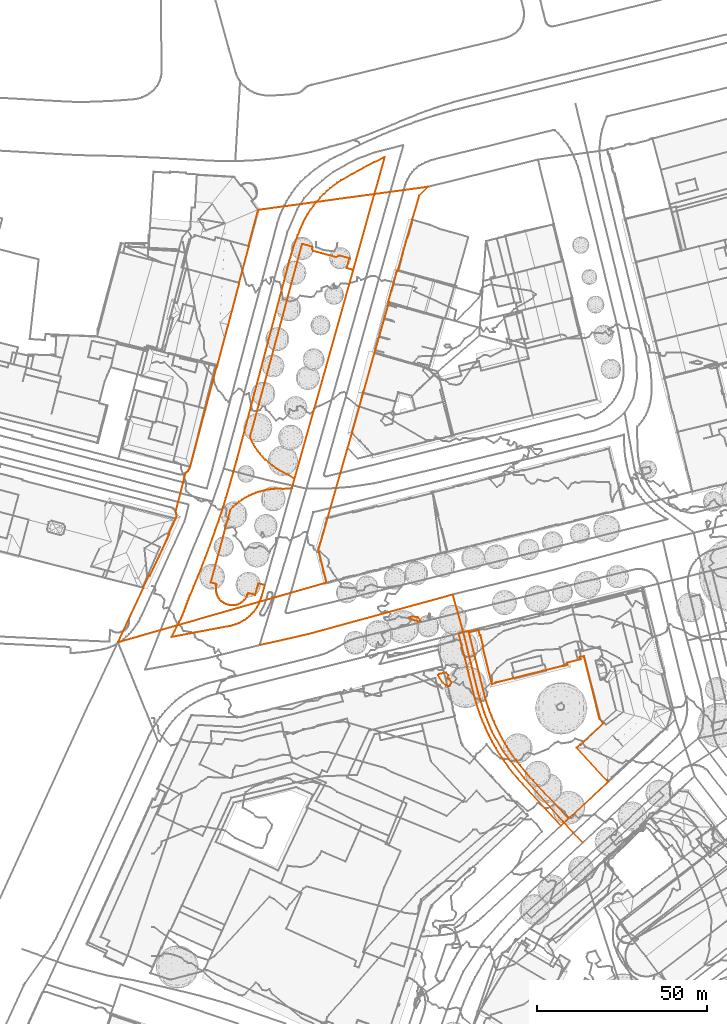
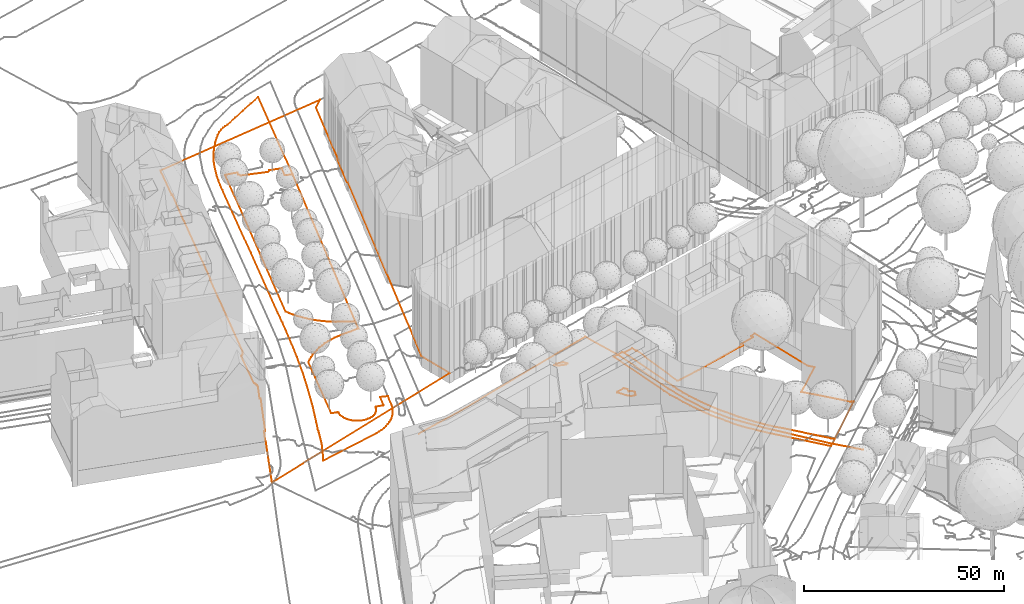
# Not in any storey, part 106 of 494: 9 proxies.
"""IFC2X3 model written with IfcOpenShell, lengths in metres."""

from ifc_helpers import new_model, entity, si_unit, frame, origin_with_axes, place, context, subcontext, project, element, save


model = new_model("IFC2X3")

# Units and contexts
model_context = context("Model", 3, precision=1e-05, world=origin_with_axes())
body_context = subcontext(model_context, "Body", "Model", "MODEL_VIEW")
ifc_project = project(units=[si_unit("AREAUNIT", "SQUARE_METRE"), si_unit("LENGTHUNIT", "METRE")], contexts=[model_context])

# Proxies
proxy_1_placement = place(None, frame((87.6867320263, 323.8997332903, 539.136), z_axis=(0.0, 0.0, 1.0), x_axis=(1.0, 0.0, 0.0)))
element("IfcBuildingElementProxy", 1, at=proxy_1_placement, Name="Road 145", ObjectType="NOTDEFINED", context=body_context, shape_type="GeometricCurveSet", body=[
    entity("IfcGeometricCurveSet", [entity("IfcPolyline", [entity("IfcCartesianPoint", [0.0, 0.0, 0.0]), entity("IfcCartesianPoint", [3.1550000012, -11.3639996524, 0.142]), entity("IfcCartesianPoint", [7.4140000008, -28.6909991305, -1.056]), entity("IfcCartesianPoint", [9.3220000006, -34.8589989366, -1.305]), entity("IfcCartesianPoint", [11.5250000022, -40.292998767, -1.658]), entity("IfcCartesianPoint", [14.9019999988, -46.3129985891, -1.998]), entity("IfcCartesianPoint", [20.9220000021, -53.9489983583, -2.519]), entity("IfcCartesianPoint", [32.5240000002, -66.8709979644, -3.478]), entity("IfcCartesianPoint", [38.2699999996, -73.0699977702, -3.638])])]),
])
proxy_2_placement = place(None, frame((30.7997320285, 308.9937337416, 538.306), z_axis=(0.0, 0.0, 1.0), x_axis=(1.0, 0.0, 0.0)))
element("IfcBuildingElementProxy", 2, at=proxy_2_placement, Name="Road 146", ObjectType="NOTDEFINED", context=body_context, shape_type="GeometricCurveSet", body=[
    entity("IfcGeometricCurveSet", [entity("IfcPolyline", [entity("IfcCartesianPoint", [0.0, 0.0, 0.0]), entity("IfcCartesianPoint", [14.4779999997, 3.2769999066, 0.274]), entity("IfcCartesianPoint", [56.8869999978, 14.9059995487, 0.83])])]),
])
proxy_3_placement = place(None, frame((92.4107320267, 312.7117160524, 539.3911386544), z_axis=(0.0, 0.0, 1.0), x_axis=(1.0, 0.0, 0.0)))
element("IfcBuildingElementProxy", 3, at=proxy_3_placement, Name="Roads Outline 8", ObjectType="NOTDEFINED", context=body_context, shape_type="GeometricCurveSet", body=[
    entity("IfcGeometricCurveSet", [entity("IfcPolyline", [entity("IfcCartesianPoint", [0.0, 0.0, 0.0]), entity("IfcCartesianPoint", [2.8420000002, 0.7040000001, -0.0929492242]), entity("IfcCartesianPoint", [3.1890000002, -0.6939999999, -0.1543087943]), entity("IfcCartesianPoint", [3.2250000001, -0.8389999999, -0.1578428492]), entity("IfcCartesianPoint", [3.4190000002, -0.791, -0.1511603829]), entity("IfcCartesianPoint", [4.179, -3.848, -0.4346827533]), entity("IfcCartesianPoint", [3.986, -3.8959999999, -0.4230538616]), entity("IfcCartesianPoint", [6.7740000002, -15.1189999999, -1.794809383]), entity("IfcCartesianPoint", [7.9380000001, -14.8289999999, -2.0682751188]), entity("IfcCartesianPoint", [7.915, -14.737, -2.0283860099]), entity("IfcCartesianPoint", [8.1710000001, -14.6739999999, -2.0363905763]), entity("IfcCartesianPoint", [13.0899999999, -13.4479999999, -2.1649147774]), entity("IfcCartesianPoint", [14.0010000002, -13.2209999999, -2.1644070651]), entity("IfcCartesianPoint", [21.8300000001, -11.2709999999, -2.1684947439]), entity("IfcCartesianPoint", [22.7260000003, -11.047, -2.1609330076]), entity("IfcCartesianPoint", [27.6699999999, -9.8159999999, -2.0617306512]), entity("IfcCartesianPoint", [27.8450000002, -9.773, -2.0624717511]), entity("IfcCartesianPoint", [27.8710000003, -9.878, -2.0637915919]), entity("IfcCartesianPoint", [29.0699999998, -9.5789999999, -2.0656992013]), entity("IfcCartesianPoint", [28.895, -8.8739999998, -2.0582686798]), entity("IfcCartesianPoint", [32.8199999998, -7.8969999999, -1.9704303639]), entity("IfcCartesianPoint", [32.7990000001, -7.8129999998, -1.9636076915]), entity("IfcCartesianPoint", [32.6579999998, -7.247, -1.91731811]), entity("IfcCartesianPoint", [33.8710000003, -6.9449999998, -1.7857212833]), entity("IfcCartesianPoint", [38.4780000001, -25.4339999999, -2.0696378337]), entity("IfcCartesianPoint", [39.693, -26.7479999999, -2.1012484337]), entity("IfcCartesianPoint", [32.8420000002, -33.0819999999, -2.4737704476]), entity("IfcCartesianPoint", [32.7689999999, -33.003, -2.4761891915]), entity("IfcCartesianPoint", [31.7430000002, -33.9399999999, -2.5089324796]), entity("IfcCartesianPoint", [40.6200000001, -43.568, -2.7983582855]), entity("IfcCartesianPoint", [40.7659999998, -43.433, -2.7875233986]), entity("IfcCartesianPoint", [41.02, -43.7079999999, -2.8060088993]), entity("IfcCartesianPoint", [41.1570000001, -43.8569999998, -2.8154774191]), entity("IfcCartesianPoint", [29.358, -54.764, -3.4456606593]), entity("IfcCartesianPoint", [28.75, -54.108, -3.4349520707]), entity("IfcCartesianPoint", [20.1699999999, -44.858, -2.9591320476]), entity("IfcCartesianPoint", [18.8420000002, -43.503, -2.9039449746]), entity("IfcCartesianPoint", [17.5690000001, -42.0969999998, -2.8322469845]), entity("IfcCartesianPoint", [16.9700000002, -41.3939999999, -2.7852235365]), entity("IfcCartesianPoint", [16.3840000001, -40.6799999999, -2.7354149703]), entity("IfcCartesianPoint", [15.0860000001, -39.0919999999, -2.6204008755]), entity("IfcCartesianPoint", [13.838, -37.4639999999, -2.4390970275]), entity("IfcCartesianPoint", [12.639, -35.8, -2.326576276]), entity("IfcCartesianPoint", [12.321, -35.3399999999, -2.2817250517]), entity("IfcCartesianPoint", [12.0070000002, -34.8769999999, -2.2406091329]), entity("IfcCartesianPoint", [11.3000000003, -33.7719999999, -2.1445399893]), entity("IfcCartesianPoint", [10.6299999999, -32.645, -2.071520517]), entity("IfcCartesianPoint", [9.9980000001, -31.4949999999, -2.0927785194]), entity("IfcCartesianPoint", [9.0670000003, -29.784, -1.9847931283]), entity("IfcCartesianPoint", [8.1940000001, -28.0429999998, -1.8867599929]), entity("IfcCartesianPoint", [7.3810000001, -26.273, -1.8051921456]), entity("IfcCartesianPoint", [6.6290000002, -24.476, -1.6868131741]), entity("IfcCartesianPoint", [5.8969999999, -22.541, -1.5973883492]), entity("IfcCartesianPoint", [5.2349999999, -20.581, -1.5068341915]), entity("IfcCartesianPoint", [4.6460000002, -18.598, -1.3939249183]), entity("IfcCartesianPoint", [4.344, -17.4109999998, -1.2903008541]), entity("IfcCartesianPoint", [3.3080000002, -13.2249999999, -0.9742046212]), entity("IfcCartesianPoint", [0.352, -1.406, -0.0498640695]), entity("IfcCartesianPoint", [0.0, 0.0, 0.0])])]),
])
proxy_4_placement = place(None, frame((4.8667320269, 311.4127160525, 537.8292272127), z_axis=(0.0, 0.0, 1.0), x_axis=(1.0, 0.0, 0.0)))
element("IfcBuildingElementProxy", 4, at=proxy_4_placement, Name="Roads Outline 16", ObjectType="NOTDEFINED", context=body_context, shape_type="GeometricCurveSet", body=[
    entity("IfcGeometricCurveSet", [entity("IfcPolyline", [entity("IfcCartesianPoint", [0.0, 0.0, 0.0]), entity("IfcCartesianPoint", [0.8979999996, 1.71, 0.057842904]), entity("IfcCartesianPoint", [1.7769999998, 3.4309999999, 0.1534559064]), entity("IfcCartesianPoint", [2.2969999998, 4.473, 0.2041688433]), entity("IfcCartesianPoint", [2.8099999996, 5.5179999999, 0.2585743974]), entity("IfcCartesianPoint", [3.216, 6.439, 0.294208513]), entity("IfcCartesianPoint", [3.5979999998, 7.3699999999, 0.3065608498]), entity("IfcCartesianPoint", [3.8789999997, 8.101, 0.3353906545]), entity("IfcCartesianPoint", [4.145, 8.838, 0.3935704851]), entity("IfcCartesianPoint", [4.466, 9.6629999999, 0.4324545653]), entity("IfcCartesianPoint", [4.7829999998, 10.49, 0.4536875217]), entity("IfcCartesianPoint", [5.0869999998, 11.29, 0.4827002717]), entity("IfcCartesianPoint", [5.3879999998, 12.091, 0.4863661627]), entity("IfcCartesianPoint", [6.5409999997, 14.827, 0.567848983]), entity("IfcCartesianPoint", [7.6689999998, 17.5729999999, 0.6398799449]), entity("IfcCartesianPoint", [8.7989999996, 20.4069999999, 0.7548279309]), entity("IfcCartesianPoint", [9.9009999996, 23.2519999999, 0.8231018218]), entity("IfcCartesianPoint", [10.9329999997, 26.0189999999, 0.9009371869]), entity("IfcCartesianPoint", [11.9469999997, 28.7919999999, 0.9707016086]), entity("IfcCartesianPoint", [12.8849999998, 31.4039999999, 1.0044870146]), entity("IfcCartesianPoint", [13.807, 34.0219999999, 1.1001363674]), entity("IfcCartesianPoint", [14.9209999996, 37.4439999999, 1.1486758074]), entity("IfcCartesianPoint", [15.9909999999, 40.879, 1.249110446]), entity("IfcCartesianPoint", [17.1259999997, 44.6969999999, 1.384567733]), entity("IfcCartesianPoint", [18.2049999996, 48.5319999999, 1.5584577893]), entity("IfcCartesianPoint", [19.1289999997, 51.8319999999, 1.6371561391]), entity("IfcCartesianPoint", [20.0259999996, 55.139, 1.6855478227]), entity("IfcCartesianPoint", [20.5989999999, 57.3099999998, 1.7407144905]), entity("IfcCartesianPoint", [21.1579999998, 59.4839999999, 1.8136487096]), entity("IfcCartesianPoint", [27.7379999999, 84.318, 2.6938726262]), entity("IfcCartesianPoint", [34.6749999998, 110.5829999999, 3.4448775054]), entity("IfcCartesianPoint", [35.2319999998, 112.6089999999, 3.520342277]), entity("IfcCartesianPoint", [35.8539999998, 114.6169999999, 3.5957394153]), entity("IfcCartesianPoint", [36.5389999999, 116.6040000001, 3.6656971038]), entity("IfcCartesianPoint", [37.1609999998, 118.2519999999, 3.7142908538]), entity("IfcCartesianPoint", [37.8279999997, 119.882, 3.7374325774]), entity("IfcCartesianPoint", [38.5379999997, 121.4939999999, 3.7437954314]), entity("IfcCartesianPoint", [39.2909999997, 123.0859999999, 3.7295020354]), entity("IfcCartesianPoint", [40.068, 124.4279999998, 3.7760190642]), entity("IfcCartesianPoint", [40.912, 125.73, 3.9096664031]), entity("IfcCartesianPoint", [41.8189999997, 126.9879999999, 4.1078653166]), entity("IfcCartesianPoint", [42.7889999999, 128.199, 4.4906635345]), entity("IfcCartesianPoint", [43.8169999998, 129.3599999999, 4.8322532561]), entity("IfcCartesianPoint", [44.7419999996, 130.3099999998, 4.8478847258]), entity("IfcCartesianPoint", [45.7079999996, 131.22, 4.8012394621]), entity("IfcCartesianPoint", [46.7109999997, 132.088, 4.7321497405]), entity("IfcCartesianPoint", [47.75, 132.912, 4.4377217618]), entity("IfcCartesianPoint", [48.824, 133.6909999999, 4.0118986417]), entity("IfcCartesianPoint", [49.9299999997, 134.423, 3.7340197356]), entity("IfcCartesianPoint", [53.193, 136.29, 3.5296538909]), entity("IfcCartesianPoint", [56.4919999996, 138.0919999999, 3.50169747]), entity("IfcCartesianPoint", [59.6169999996, 139.7179999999, 3.4700052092]), entity("IfcCartesianPoint", [62.7719999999, 141.2859999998, 3.4943938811]), entity("IfcCartesianPoint", [53.497, 108.017, 3.2708911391]), entity("IfcCartesianPoint", [51.5499999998, 108.5599999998, 3.3182927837]), entity("IfcCartesianPoint", [52.3629999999, 111.4539999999, 3.4174686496]), entity("IfcCartesianPoint", [49.1769999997, 112.3189999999, 3.4350429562]), entity("IfcCartesianPoint", [49.122, 112.1159999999, 3.4241581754]), entity("IfcCartesianPoint", [48.4899999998, 111.7859999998, 3.4386717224]), entity("IfcCartesianPoint", [41.7339999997, 113.621, 3.6380914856]), entity("IfcCartesianPoint", [41.3529999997, 114.2409999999, 3.7371465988]), entity("IfcCartesianPoint", [41.5019999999, 114.79, 3.9332203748]), entity("IfcCartesianPoint", [38.4559999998, 115.7149999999, 3.6885986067]), entity("IfcCartesianPoint", [23.1149999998, 58.905, 1.7648117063]), entity("IfcCartesianPoint", [23.5749999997, 57.8459999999, 1.7268792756]), entity("IfcCartesianPoint", [24.0979999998, 56.817, 1.7089686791]), entity("IfcCartesianPoint", [24.682, 55.8219999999, 1.7058694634]), entity("IfcCartesianPoint", [25.3259999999, 54.8629999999, 1.6994161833]), entity("IfcCartesianPoint", [26.0259999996, 53.9449999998, 1.6717705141]), entity("IfcCartesianPoint", [26.7799999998, 53.0719999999, 1.6444304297]), entity("IfcCartesianPoint", [27.5859999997, 52.2449999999, 1.6277614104]), entity("IfcCartesianPoint", [28.574, 51.355, 1.6035232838]), entity("IfcCartesianPoint", [29.6089999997, 50.52, 1.5874533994]), entity("IfcCartesianPoint", [30.6879999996, 49.7419999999, 1.5606764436]), entity("IfcCartesianPoint", [31.807, 49.024, 1.5550925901]), entity("IfcCartesianPoint", [32.9639999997, 48.3669999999, 1.5872757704]), entity("IfcCartesianPoint", [34.1539999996, 47.774, 1.6099314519]), entity("IfcCartesianPoint", [36.2249999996, 46.558, 1.4866326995]), entity("IfcCartesianPoint", [35.4399999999, 43.7759999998, 1.4669327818]), entity("IfcCartesianPoint", [32.9839999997, 43.5659999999, 1.5140972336]), entity("IfcCartesianPoint", [31.821, 43.6199999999, 1.4606553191]), entity("IfcCartesianPoint", [30.6569999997, 43.6040000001, 1.4226460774]), entity("IfcCartesianPoint", [29.4959999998, 43.5179999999, 1.40262106]), entity("IfcCartesianPoint", [28.3419999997, 43.362, 1.3639964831]), entity("IfcCartesianPoint", [27.199, 43.1369999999, 1.3754187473]), entity("IfcCartesianPoint", [26.0729999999, 42.844, 1.3725842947]), entity("IfcCartesianPoint", [24.9649999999, 42.483, 1.3650124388]), entity("IfcCartesianPoint", [23.8819999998, 42.057, 1.3446565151]), entity("IfcCartesianPoint", [22.841, 41.584, 1.3267142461]), entity("IfcCartesianPoint", [21.8309999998, 41.05, 1.284823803]), entity("IfcCartesianPoint", [20.8539999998, 40.4569999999, 1.2535040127]), entity("IfcCartesianPoint", [19.9139999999, 39.807, 1.2503967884]), entity("IfcCartesianPoint", [19.014, 39.102, 1.2244648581]), entity("IfcCartesianPoint", [18.1579999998, 38.344, 1.2049830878]), entity("IfcCartesianPoint", [17.3489999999, 37.537, 1.217130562]), entity("IfcCartesianPoint", [11.554, 16.0599999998, 0.7359990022]), entity("IfcCartesianPoint", [13.1349999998, 15.5279999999, 0.7559801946]), entity("IfcCartesianPoint", [13.1039999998, 15.416, 0.7490343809]), entity("IfcCartesianPoint", [13.2769999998, 15.368, 0.7496500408]), entity("IfcCartesianPoint", [13.156, 14.8029999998, 0.7419867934]), entity("IfcCartesianPoint", [13.105, 14.227, 0.7399662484]), entity("IfcCartesianPoint", [13.1229999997, 13.6499999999, 0.7011158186]), entity("IfcCartesianPoint", [13.2109999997, 13.0789999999, 0.6891020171]), entity("IfcCartesianPoint", [13.3659999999, 12.5219999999, 0.7465711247]), entity("IfcCartesianPoint", [13.588, 11.9889999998, 0.7529428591]), entity("IfcCartesianPoint", [13.8729999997, 11.486, 0.7386645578]), entity("IfcCartesianPoint", [14.216, 11.0209999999, 0.7414310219]), entity("IfcCartesianPoint", [14.6129999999, 10.601, 0.7403655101]), entity("IfcCartesianPoint", [15.057, 10.2319999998, 0.740865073]), entity("IfcCartesianPoint", [15.5429999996, 9.919, 0.7401299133]), entity("IfcCartesianPoint", [16.0629999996, 9.6669999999, 0.7347752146]), entity("IfcCartesianPoint", [16.6089999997, 9.4790000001, 0.7305944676]), entity("IfcCartesianPoint", [17.1749999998, 9.3589999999, 0.7343220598]), entity("IfcCartesianPoint", [17.7509999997, 9.308, 0.7315497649]), entity("IfcCartesianPoint", [18.3289999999, 9.327, 0.7268263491]), entity("IfcCartesianPoint", [18.9009999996, 9.415, 0.7328851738]), entity("IfcCartesianPoint", [19.4579999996, 9.5719999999, 0.7306107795]), entity("IfcCartesianPoint", [19.9909999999, 9.7949999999, 0.6974832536]), entity("IfcCartesianPoint", [20.4939999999, 10.0799999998, 0.6774237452]), entity("IfcCartesianPoint", [20.9589999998, 10.425, 0.698214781]), entity("IfcCartesianPoint", [21.3789999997, 10.8219999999, 0.6988648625]), entity("IfcCartesianPoint", [21.7479999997, 11.2679999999, 0.6956020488]), entity("IfcCartesianPoint", [22.0609999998, 11.7549999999, 0.7161606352]), entity("IfcCartesianPoint", [22.3119999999, 12.2759999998, 0.7183724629]), entity("IfcCartesianPoint", [22.4989999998, 12.8229999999, 0.76527226]), entity("IfcCartesianPoint", [22.6719999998, 12.7749999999, 0.7647807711]), entity("IfcCartesianPoint", [22.7019999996, 12.885, 0.7711754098]), entity("IfcCartesianPoint", [24.4189999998, 12.425, 0.7985351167]), entity("IfcCartesianPoint", [24.5989999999, 12.368, 0.7977311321]), entity("IfcCartesianPoint", [25.554, 15.753, 0.9686895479]), entity("IfcCartesianPoint", [27.48, 15.23, 0.8746545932]), entity("IfcCartesianPoint", [26.4099999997, 11.5149999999, 0.7201037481]), entity("IfcCartesianPoint", [26.21, 10.9299999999, 0.7096185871]), entity("IfcCartesianPoint", [25.98, 10.3559999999, 0.7203955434]), entity("IfcCartesianPoint", [25.605, 9.564, 0.6950099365]), entity("IfcCartesianPoint", [25.1749999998, 8.8019999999, 0.6740126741]), entity("IfcCartesianPoint", [24.6899999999, 8.0719999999, 0.6368284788]), entity("IfcCartesianPoint", [24.1549999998, 7.379, 0.6357662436]), entity("IfcCartesianPoint", [23.5699999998, 6.727, 0.6349808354]), entity("IfcCartesianPoint", [22.9409999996, 6.118, 0.6108647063]), entity("IfcCartesianPoint", [22.2319999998, 5.5259999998, 0.5847017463]), entity("IfcCartesianPoint", [21.4789999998, 4.99, 0.5543250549]), entity("IfcCartesianPoint", [20.6879999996, 4.513, 0.5341115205]), entity("IfcCartesianPoint", [19.8629999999, 4.0969999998, 0.5091554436]), entity("IfcCartesianPoint", [19.0089999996, 3.7449999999, 0.4924849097]), entity("IfcCartesianPoint", [18.1309999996, 3.459, 0.4769062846]), entity("IfcCartesianPoint", [17.233, 3.2409999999, 0.4112491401]), entity("IfcCartesianPoint", [0.0, 0.0, 0.0])])]),
])
proxy_5_placement = place(None, frame((27.9817320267, 370.3177160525, 539.594038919), z_axis=(0.0, 0.0, 1.0), x_axis=(1.0, 0.0, 0.0)))
element("IfcBuildingElementProxy", 5, at=proxy_5_placement, Name="Roads Outline 17", ObjectType="NOTDEFINED", context=body_context, shape_type="GeometricCurveSet", body=[
    entity("IfcGeometricCurveSet", [entity("IfcPolyline", [entity("IfcCartesianPoint", [0.0, 0.0, 0.0]), entity("IfcCartesianPoint", [15.341, 56.8099999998, 1.9237869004]), entity("IfcCartesianPoint", [18.3870000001, 55.885, 2.1684086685]), entity("IfcCartesianPoint", [18.2379999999, 55.3359999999, 1.9723348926]), entity("IfcCartesianPoint", [18.6189999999, 54.716, 1.8732797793]), entity("IfcCartesianPoint", [25.375, 52.8809999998, 1.6738600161]), entity("IfcCartesianPoint", [26.0070000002, 53.2109999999, 1.6593464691]), entity("IfcCartesianPoint", [26.0619999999, 53.4139999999, 1.6702312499]), entity("IfcCartesianPoint", [29.2480000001, 52.5489999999, 1.6526569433]), entity("IfcCartesianPoint", [28.4350000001, 49.6549999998, 1.5534810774]), entity("IfcCartesianPoint", [30.3820000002, 49.112, 1.5060794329]), entity("IfcCartesianPoint", [13.1099999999, -12.3470000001, -0.2781790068]), entity("IfcCartesianPoint", [11.0389999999, -11.1310000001, -0.1548802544]), entity("IfcCartesianPoint", [9.8489999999, -10.5380000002, -0.1775359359]), entity("IfcCartesianPoint", [8.6920000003, -9.8810000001, -0.2097191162]), entity("IfcCartesianPoint", [7.5729999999, -9.1630000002, -0.2041352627]), entity("IfcCartesianPoint", [6.4939999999, -8.385, -0.1773583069]), entity("IfcCartesianPoint", [5.4590000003, -7.55, -0.1612884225]), entity("IfcCartesianPoint", [4.4709999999, -6.6600000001, -0.1370502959]), entity("IfcCartesianPoint", [3.665, -5.8330000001, -0.1203812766]), entity("IfcCartesianPoint", [2.9109999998, -4.9600000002, -0.0930411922]), entity("IfcCartesianPoint", [2.2110000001, -4.0420000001, -0.065395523]), entity("IfcCartesianPoint", [1.5670000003, -3.0830000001, -0.0589422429]), entity("IfcCartesianPoint", [0.983, -2.088, -0.0558430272]), entity("IfcCartesianPoint", [0.46, -1.0590000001, -0.0379324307]), entity("IfcCartesianPoint", [0.0, 0.0, 0.0])])]),
])
proxy_6_placement = place(None, frame((89.4107320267, 312.4367160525, 539.3576506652), z_axis=(0.0, 0.0, 1.0), x_axis=(1.0, 0.0, 0.0)))
element("IfcBuildingElementProxy", 6, at=proxy_6_placement, Name="Roads Outline 35", ObjectType="NOTDEFINED", context=body_context, shape_type="GeometricCurveSet", body=[
    entity("IfcGeometricCurveSet", [entity("IfcPolyline", [entity("IfcCartesianPoint", [0.0, 0.0, 0.0]), entity("IfcCartesianPoint", [2.889, 0.72, 0.0328029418]), entity("IfcCartesianPoint", [3.0, 0.2749999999, 0.0334879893]), entity("IfcCartesianPoint", [3.352, -1.1310000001, -0.0163760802]), entity("IfcCartesianPoint", [6.3080000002, -12.95, -0.940716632]), entity("IfcCartesianPoint", [7.344, -17.1359999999, -1.2568128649]), entity("IfcCartesianPoint", [7.6460000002, -18.3230000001, -1.360436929]), entity("IfcCartesianPoint", [8.2349999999, -20.3060000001, -1.4733462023]), entity("IfcCartesianPoint", [8.8969999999, -22.2660000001, -1.56390036]), entity("IfcCartesianPoint", [9.6290000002, -24.2010000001, -1.6533251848]), entity("IfcCartesianPoint", [10.3810000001, -25.9980000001, -1.7717041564]), entity("IfcCartesianPoint", [11.1940000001, -27.7679999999, -1.8532720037]), entity("IfcCartesianPoint", [12.0670000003, -29.5090000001, -1.9513051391]), entity("IfcCartesianPoint", [12.9980000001, -31.22, -2.0592905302]), entity("IfcCartesianPoint", [13.6299999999, -32.3700000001, -2.0380325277]), entity("IfcCartesianPoint", [14.3000000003, -33.497, -2.111052]), entity("IfcCartesianPoint", [15.0070000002, -34.602, -2.2071211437]), entity("IfcCartesianPoint", [15.321, -35.0649999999, -2.2482370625]), entity("IfcCartesianPoint", [15.639, -35.5250000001, -2.2930882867]), entity("IfcCartesianPoint", [16.838, -37.189, -2.4056090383]), entity("IfcCartesianPoint", [18.0860000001, -38.817, -2.5869128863]), entity("IfcCartesianPoint", [19.3840000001, -40.405, -2.7019269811]), entity("IfcCartesianPoint", [19.9700000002, -41.1189999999, -2.7517355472]), entity("IfcCartesianPoint", [20.5690000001, -41.8219999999, -2.7987589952]), entity("IfcCartesianPoint", [21.8420000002, -43.2280000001, -2.8704569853]), entity("IfcCartesianPoint", [23.1699999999, -44.5830000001, -2.9256440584]), entity("IfcCartesianPoint", [31.75, -53.8330000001, -3.4014640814]), entity("IfcCartesianPoint", [32.358, -54.4890000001, -3.41217267]), entity("IfcCartesianPoint", [30.1329999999, -56.544, -3.5888573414]), entity("IfcCartesianPoint", [18.764, -44.2350000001, -2.9400293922]), entity("IfcCartesianPoint", [17.3089999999, -42.6030000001, -2.8003509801]), entity("IfcCartesianPoint", [15.9139999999, -40.9199999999, -2.703523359]), entity("IfcCartesianPoint", [14.5789999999, -39.1880000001, -2.6642403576]), entity("IfcCartesianPoint", [13.3080000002, -37.409, -2.5694888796]), entity("IfcCartesianPoint", [12.102, -35.585, -2.3035170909]), entity("IfcCartesianPoint", [10.9619999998, -33.719, -2.1797041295]), entity("IfcCartesianPoint", [9.8900000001, -31.814, -2.1333256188]), entity("IfcCartesianPoint", [8.8859999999, -29.872, -1.9507412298]), entity("IfcCartesianPoint", [7.952, -27.8940000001, -1.8487603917]), entity("IfcCartesianPoint", [7.0899999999, -25.885, -1.6421404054]), entity("IfcCartesianPoint", [6.3000000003, -23.845, -1.5313275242]), entity("IfcCartesianPoint", [5.585, -21.7790000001, -1.4493062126]), entity("IfcCartesianPoint", [4.9440000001, -19.6880000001, -1.4308984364]), entity("IfcCartesianPoint", [4.378, -17.5760000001, -1.2929604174]), entity("IfcCartesianPoint", [0.0, 0.0, 0.0])])]),
])
proxy_7_placement = place(None, frame((-10.8872679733, 309.8447160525, 537.6489267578), z_axis=(0.0, 0.0, 1.0), x_axis=(1.0, 0.0, 0.0)))
element("IfcBuildingElementProxy", 7, at=proxy_7_placement, Name="Cadastre 76", ObjectType="NOTDEFINED", context=body_context, shape_type="GeometricCurveSet", body=[
    entity("IfcGeometricCurveSet", [entity("IfcPolyline", [entity("IfcCartesianPoint", [0.0, 0.0, 0.0]), entity("IfcCartesianPoint", [7.4780000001, 16.0249999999, 0.3165524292]), entity("IfcCartesianPoint", [7.3670000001, 16.0529999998, 0.3172172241]), entity("IfcCartesianPoint", [9.1170000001, 19.7439999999, 0.4598537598]), entity("IfcCartesianPoint", [9.3870000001, 19.6139999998, 0.4553310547]), entity("IfcCartesianPoint", [15.2149999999, 31.966, 0.9285831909]), entity("IfcCartesianPoint", [14.9550000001, 32.0859999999, 0.9181738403]), entity("IfcCartesianPoint", [16.9750000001, 36.3569999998, 1.156376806]), entity("IfcCartesianPoint", [17.1179999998, 36.7559999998, 1.1742338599]), entity("IfcCartesianPoint", [17.1910000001, 37.1739999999, 1.1625963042]), entity("IfcCartesianPoint", [17.193, 37.598, 1.150005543]), entity("IfcCartesianPoint", [17.1230000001, 38.0159999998, 1.1405610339]), entity("IfcCartesianPoint", [16.9840000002, 38.4169999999, 1.1395237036]), entity("IfcCartesianPoint", [19.8620000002, 49.7989999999, 1.4134006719]), entity("IfcCartesianPoint", [20.2429999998, 50.0669999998, 1.4404162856]), entity("IfcCartesianPoint", [20.577, 50.3899999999, 1.4786390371]), entity("IfcCartesianPoint", [20.858, 50.7609999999, 1.5279309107]), entity("IfcCartesianPoint", [21.0780000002, 51.1709999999, 1.5365431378]), entity("IfcCartesianPoint", [21.2319999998, 51.6099999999, 1.5241972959]), entity("IfcCartesianPoint", [25.7480000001, 68.693, 2.0956578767]), entity("IfcCartesianPoint", [28.9580000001, 80.835, 2.5235742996]), entity("IfcCartesianPoint", [29.0380000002, 81.135, 2.5302625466]), entity("IfcCartesianPoint", [29.148, 81.105, 2.5321642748]), entity("IfcCartesianPoint", [35.7089999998, 105.7679999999, 3.2596886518]), entity("IfcCartesianPoint", [35.625, 105.7899999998, 3.2547254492]), entity("IfcCartesianPoint", [38.5440000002, 116.5819999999, 3.7064967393]), entity("IfcCartesianPoint", [38.3939999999, 116.622, 3.6995624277]), entity("IfcCartesianPoint", [41.253, 127.2849999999, 3.7138637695]), entity("IfcCartesianPoint", [91.273, 134.0769999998, 3.6620244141]), entity("IfcCartesianPoint", [88.6779999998, 131.5279999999, 3.7031459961]), entity("IfcCartesianPoint", [82.3229999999, 109.321, 3.5338873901]), entity("IfcCartesianPoint", [82.1239999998, 109.3779999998, 3.5333173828]), entity("IfcCartesianPoint", [79.5219999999, 100.1869999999, 3.1899750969]), entity("IfcCartesianPoint", [79.781, 100.1129999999, 3.1923586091]), entity("IfcCartesianPoint", [75.4739999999, 85.0569999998, 2.8495830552]), entity("IfcCartesianPoint", [72.2259999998, 73.477, 2.4832541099]), entity("IfcCartesianPoint", [67.6099999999, 57.2309999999, 2.0403382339]), entity("IfcCartesianPoint", [61.6869999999, 36.595, 1.6416942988]), entity("IfcCartesianPoint", [59.031, 27.2209999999, 1.3546232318]), entity("IfcCartesianPoint", [61.4219999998, 17.548, 1.2739363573]), entity("IfcCartesianPoint", [0.0, 0.0, 0.0])])]),
])
proxy_8_placement = place(None, frame((74.8581516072, 317.1707160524, 539.0), z_axis=(0.0, 0.0, 1.0), x_axis=(1.0, 0.0, 0.0)))
element("IfcBuildingElementProxy", 8, at=proxy_8_placement, Name="Contour Line 539.0 m", ObjectType="NOTDEFINED", context=body_context, shape_type="GeometricCurveSet", body=[
    entity("IfcGeometricCurveSet", [entity("IfcPolyline", [entity("IfcCartesianPoint", [2.8195804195, -1.275510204, 0.0]), entity("IfcCartesianPoint", [3.3391557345, -1.0, 0.0]), entity("IfcCartesianPoint", [2.5863648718, 0.0, 0.0]), entity("IfcCartesianPoint", [0.8195804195, 0.2642019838, 0.0]), entity("IfcCartesianPoint", [0.0, 0.0, 0.0]), entity("IfcCartesianPoint", [0.8195804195, -0.6934911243, 0.0]), entity("IfcCartesianPoint", [2.8195804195, -1.275510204, 0.0])])]),
])
proxy_9_placement = place(None, frame((83.311249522, 300.1707160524, 538.0), z_axis=(0.0, 0.0, 1.0), x_axis=(1.0, 0.0, 0.0)))
element("IfcBuildingElementProxy", 9, at=proxy_9_placement, Name="Contour Line 538.0 m", ObjectType="NOTDEFINED", context=body_context, shape_type="GeometricCurveSet", body=[
    entity("IfcGeometricCurveSet", [entity("IfcPolyline", [entity("IfcCartesianPoint", [3.5401797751, -3.0, 0.0]), entity("IfcCartesianPoint", [3.3664825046, -3.2745098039, 0.0]), entity("IfcCartesianPoint", [2.3664825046, -3.1387283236, 0.0]), entity("IfcCartesianPoint", [1.3664825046, -2.1686746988, 0.0]), entity("IfcCartesianPoint", [0.0, 0.0, 0.0]), entity("IfcCartesianPoint", [0.3664825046, 0.3528368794, 0.0]), entity("IfcCartesianPoint", [2.3664825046, 0.7926186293, 0.0]), entity("IfcCartesianPoint", [2.9946162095, 0.0, 0.0]), entity("IfcCartesianPoint", [2.7664825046, -1.0, 0.0]), entity("IfcCartesianPoint", [3.3664825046, -1.1241830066, 0.0]), entity("IfcCartesianPoint", [3.986852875, -2.0, 0.0]), entity("IfcCartesianPoint", [3.5401797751, -3.0, 0.0])])]),
])

save(model, "model.ifc")
